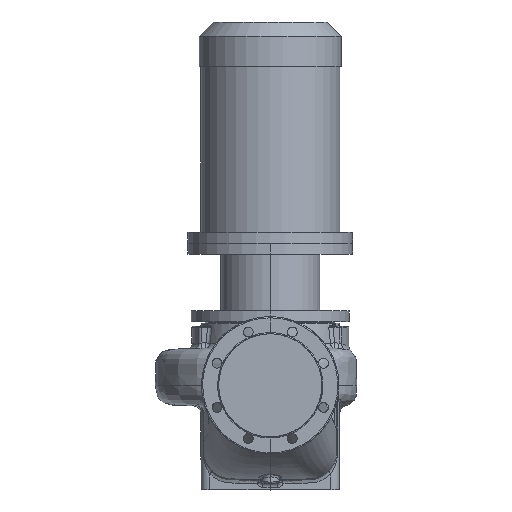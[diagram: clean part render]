
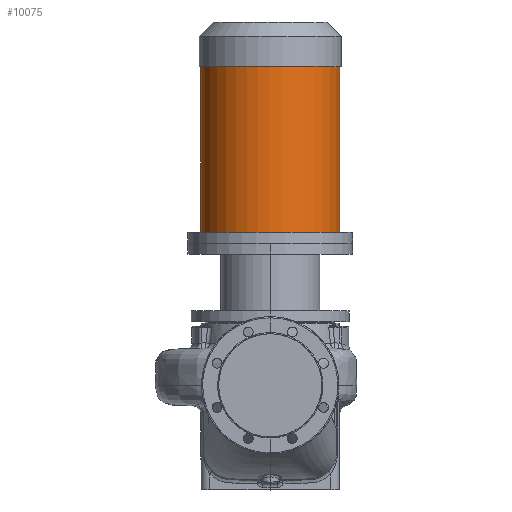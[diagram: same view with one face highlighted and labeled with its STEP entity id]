
A CAD part, top view. The second image highlights one B-rep face of the part: STEP entity #10075.
In plain terms, the highlighted cylindrical face has radius 126.5 mm (diameter 253 mm), a partial arc.
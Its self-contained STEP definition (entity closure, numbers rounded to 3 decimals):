
#98 = CARTESIAN_POINT ( 'NONE',  ( 126.5, 259.3, 0. ) ) ;
#687 = AXIS2_PLACEMENT_3D ( 'NONE', #17658, #2275, #2716 ) ;
#2275 = DIRECTION ( 'NONE',  ( 0., -1., 0. ) ) ;
#2716 = DIRECTION ( 'NONE',  ( -1., 0., 0. ) ) ;
#5298 = VERTEX_POINT ( 'NONE', #15311 ) ;
#10075 = ADVANCED_FACE ( 'NONE', ( #19321 ), #34633, .T. ) ;
#14136 = VECTOR ( 'NONE', #56703, 1000. ) ;
#15311 = CARTESIAN_POINT ( 'NONE',  ( -126.5, 581.3, 0. ) ) ;
#16388 = VECTOR ( 'NONE', #46586, 1000. ) ;
#17658 = CARTESIAN_POINT ( 'NONE',  ( 0., 259.3, 0. ) ) ;
#19321 = FACE_OUTER_BOUND ( 'NONE', #19957, .T. ) ;
#19957 = EDGE_LOOP ( 'NONE', ( #63378, #32372, #62743, #58592 ) ) ;
#20165 = EDGE_CURVE ( 'NONE', #53847, #52164, #27903, .T. ) ;
#21553 = EDGE_CURVE ( 'NONE', #5298, #41433, #46151, .T. ) ;
#24717 = DIRECTION ( 'NONE',  ( 0., -1., 0. ) ) ;
#26338 = CARTESIAN_POINT ( 'NONE',  ( -126.5, 259.3, 0. ) ) ;
#27903 = LINE ( 'NONE', #98, #14136 ) ;
#32372 = ORIENTED_EDGE ( 'NONE', *, *, #39984, .T. ) ;
#33630 = AXIS2_PLACEMENT_3D ( 'NONE', #47564, #38352, #57517 ) ;
#34385 = CARTESIAN_POINT ( 'NONE',  ( 0., 581.3, 0. ) ) ;
#34633 = CYLINDRICAL_SURFACE ( 'NONE', #687, 126.5 ) ;
#38352 = DIRECTION ( 'NONE',  ( 0., -1., 0. ) ) ;
#39984 = EDGE_CURVE ( 'NONE', #53847, #5298, #43162, .T. ) ;
#40728 = CARTESIAN_POINT ( 'NONE',  ( 126.5, 581.3, 0. ) ) ;
#41433 = VERTEX_POINT ( 'NONE', #50941 ) ;
#43162 = CIRCLE ( 'NONE', #66497, 126.5 ) ;
#45150 = DIRECTION ( 'NONE',  ( -1., 0., 0. ) ) ;
#46151 = LINE ( 'NONE', #26338, #16388 ) ;
#46586 = DIRECTION ( 'NONE',  ( 0., -1., 0. ) ) ;
#47564 = CARTESIAN_POINT ( 'NONE',  ( 0., 279.3, 0. ) ) ;
#50941 = CARTESIAN_POINT ( 'NONE',  ( -126.5, 279.3, 0. ) ) ;
#52164 = VERTEX_POINT ( 'NONE', #59199 ) ;
#53847 = VERTEX_POINT ( 'NONE', #40728 ) ;
#56703 = DIRECTION ( 'NONE',  ( 0., -1., 0. ) ) ;
#57517 = DIRECTION ( 'NONE',  ( -1., 0., 0. ) ) ;
#57967 = EDGE_CURVE ( 'NONE', #52164, #41433, #66650, .T. ) ;
#58592 = ORIENTED_EDGE ( 'NONE', *, *, #57967, .F. ) ;
#59199 = CARTESIAN_POINT ( 'NONE',  ( 126.5, 279.3, 0. ) ) ;
#62743 = ORIENTED_EDGE ( 'NONE', *, *, #21553, .T. ) ;
#63378 = ORIENTED_EDGE ( 'NONE', *, *, #20165, .F. ) ;
#66497 = AXIS2_PLACEMENT_3D ( 'NONE', #34385, #24717, #45150 ) ;
#66650 = CIRCLE ( 'NONE', #33630, 126.5 ) ;
